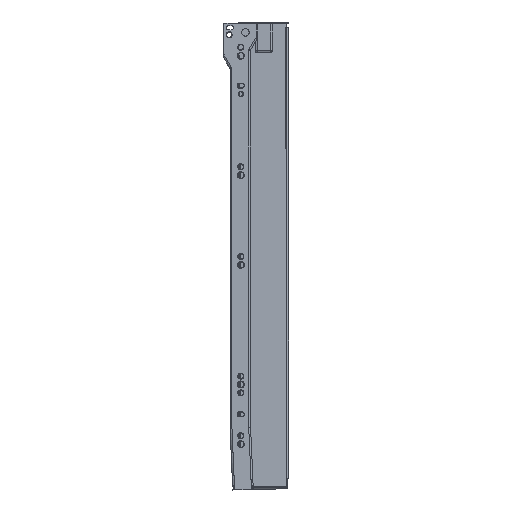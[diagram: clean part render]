
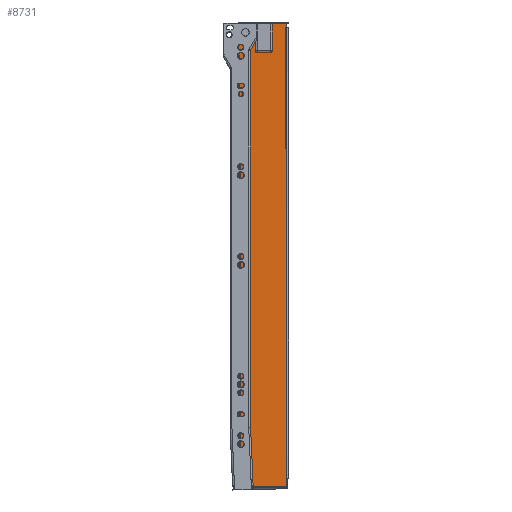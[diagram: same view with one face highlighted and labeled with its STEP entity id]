
A CAD part, left-side view. The second image highlights one B-rep face of the part: STEP entity #8731.
In plain terms, the highlighted planar face has unit normal (-1, 0, 0) as drawn and (0, 0, -1) by its records, which use the part's own axes.
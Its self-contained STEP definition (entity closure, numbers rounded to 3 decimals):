
#708=LINE('',#14071,#1402);
#712=LINE('',#14089,#1406);
#713=LINE('',#14091,#1407);
#714=LINE('',#14093,#1408);
#715=LINE('',#14095,#1409);
#716=LINE('',#14097,#1410);
#717=LINE('',#14101,#1411);
#718=LINE('',#14104,#1412);
#1402=VECTOR('',#11413,53.928);
#1406=VECTOR('',#11423,496.2);
#1407=VECTOR('',#11424,52.034);
#1408=VECTOR('',#11425,55.801);
#1409=VECTOR('',#11426,419.152);
#1410=VECTOR('',#11427,1.6);
#1411=VECTOR('',#11430,1.3);
#1412=VECTOR('',#11433,15.5);
#1813=PLANE('',#9512);
#2060=FACE_BOUND('',#3029,.T.);
#2407=FACE_OUTER_BOUND('',#3028,.T.);
#3028=EDGE_LOOP('',(#6954,#6955,#6956,#6957,#6958,#6959,#6960,#6961,#6962,
#6963,#6964));
#3029=EDGE_LOOP('',(#6965));
#3544=CIRCLE('',#9511,2.);
#3545=CIRCLE('',#9513,1.2);
#3546=CIRCLE('',#9514,2.);
#3547=CIRCLE('',#9515,3.5);
#4168=VERTEX_POINT('',#14065);
#4169=VERTEX_POINT('',#14070);
#4171=VERTEX_POINT('',#14083);
#4172=VERTEX_POINT('',#14088);
#4173=VERTEX_POINT('',#14090);
#4174=VERTEX_POINT('',#14092);
#4175=VERTEX_POINT('',#14094);
#4176=VERTEX_POINT('',#14096);
#4177=VERTEX_POINT('',#14098);
#4178=VERTEX_POINT('',#14100);
#4179=VERTEX_POINT('',#14102);
#4180=VERTEX_POINT('',#14105);
#5158=EDGE_CURVE('',#4168,#4169,#708,.T.);
#5161=EDGE_CURVE('',#4169,#4171,#3544,.T.);
#5164=EDGE_CURVE('',#4172,#4168,#712,.T.);
#5165=EDGE_CURVE('',#4172,#4173,#713,.T.);
#5166=EDGE_CURVE('',#4174,#4173,#714,.T.);
#5167=EDGE_CURVE('',#4175,#4174,#715,.T.);
#5168=EDGE_CURVE('',#4175,#4176,#716,.T.);
#5169=EDGE_CURVE('',#4177,#4176,#3545,.T.);
#5170=EDGE_CURVE('',#4178,#4177,#717,.T.);
#5171=EDGE_CURVE('',#4179,#4178,#3546,.T.);
#5172=EDGE_CURVE('',#4171,#4179,#718,.T.);
#5173=EDGE_CURVE('',#4180,#4180,#3547,.T.);
#6954=ORIENTED_EDGE('',*,*,#5158,.F.);
#6955=ORIENTED_EDGE('',*,*,#5164,.F.);
#6956=ORIENTED_EDGE('',*,*,#5165,.T.);
#6957=ORIENTED_EDGE('',*,*,#5166,.F.);
#6958=ORIENTED_EDGE('',*,*,#5167,.F.);
#6959=ORIENTED_EDGE('',*,*,#5168,.T.);
#6960=ORIENTED_EDGE('',*,*,#5169,.F.);
#6961=ORIENTED_EDGE('',*,*,#5170,.F.);
#6962=ORIENTED_EDGE('',*,*,#5171,.F.);
#6963=ORIENTED_EDGE('',*,*,#5172,.F.);
#6964=ORIENTED_EDGE('',*,*,#5161,.F.);
#6965=ORIENTED_EDGE('',*,*,#5173,.T.);
#8731=ADVANCED_FACE('',(#2407,#2060),#1813,.F.);
#9511=AXIS2_PLACEMENT_3D('',#14084,#11417,#11418);
#9512=AXIS2_PLACEMENT_3D('',#14087,#11421,#11422);
#9513=AXIS2_PLACEMENT_3D('',#14099,#11428,#11429);
#9514=AXIS2_PLACEMENT_3D('',#14103,#11431,#11432);
#9515=AXIS2_PLACEMENT_3D('',#14106,#11434,#11435);
#11413=DIRECTION('',(0.,1.,0.));
#11417=DIRECTION('center_axis',(0.,0.,1.));
#11418=DIRECTION('ref_axis',(1.,0.,0.));
#11421=DIRECTION('center_axis',(0.,0.,1.));
#11422=DIRECTION('ref_axis',(1.,0.,0.));
#11423=DIRECTION('',(1.,0.,0.));
#11424=DIRECTION('',(0.,1.,0.));
#11425=DIRECTION('',(-0.999,0.044,0.));
#11426=DIRECTION('',(-1.,0.,0.));
#11427=DIRECTION('',(0.,1.,0.));
#11428=DIRECTION('center_axis',(0.,0.,-1.));
#11429=DIRECTION('ref_axis',(1.,0.,0.));
#11430=DIRECTION('',(0.,-1.,0.));
#11431=DIRECTION('center_axis',(0.,0.,1.));
#11432=DIRECTION('ref_axis',(0.,1.,0.));
#11433=DIRECTION('',(-1.,0.,0.));
#11434=DIRECTION('center_axis',(0.,0.,1.));
#11435=DIRECTION('ref_axis',(-1.,0.,0.));
#14065=CARTESIAN_POINT('',(9.4,-47.,0.));
#14070=CARTESIAN_POINT('',(9.4,6.928,0.));
#14071=CARTESIAN_POINT('',(9.4,-10.018,0.));
#14083=CARTESIAN_POINT('',(8.,7.5,0.));
#14084=CARTESIAN_POINT('Origin',(8.,5.5,0.));
#14087=CARTESIAN_POINT('Origin',(-239.803,-21.736,0.));
#14088=CARTESIAN_POINT('',(-486.8,-47.,0.));
#14089=CARTESIAN_POINT('',(-364.901,-47.,0.));
#14090=CARTESIAN_POINT('',(-486.8,5.034,0.));
#14091=CARTESIAN_POINT('',(-486.8,-7.08,0.));
#14092=CARTESIAN_POINT('',(-431.052,2.6,0.));
#14093=CARTESIAN_POINT('',(-335.092,-1.59,0.));
#14094=CARTESIAN_POINT('',(-11.9,2.6,0.));
#14095=CARTESIAN_POINT('',(-125.851,2.6,0.));
#14096=CARTESIAN_POINT('',(-11.9,4.2,0.));
#14097=CARTESIAN_POINT('',(-11.9,-8.768,0.));
#14098=CARTESIAN_POINT('',(-9.5,4.2,0.));
#14099=CARTESIAN_POINT('Origin',(-10.7,4.2,0.));
#14100=CARTESIAN_POINT('',(-9.5,5.5,0.));
#14101=CARTESIAN_POINT('',(-9.5,5.5,0.));
#14102=CARTESIAN_POINT('',(-7.5,7.5,0.));
#14103=CARTESIAN_POINT('Origin',(-7.5,5.5,0.));
#14104=CARTESIAN_POINT('',(8.,7.5,0.));
#14105=CARTESIAN_POINT('',(3.5,0.,0.));
#14106=CARTESIAN_POINT('Origin',(0.,0.,0.));
